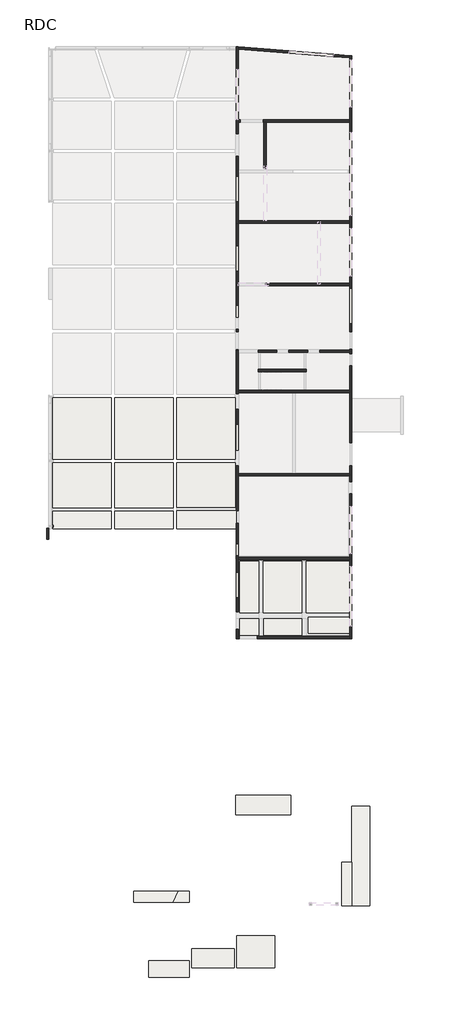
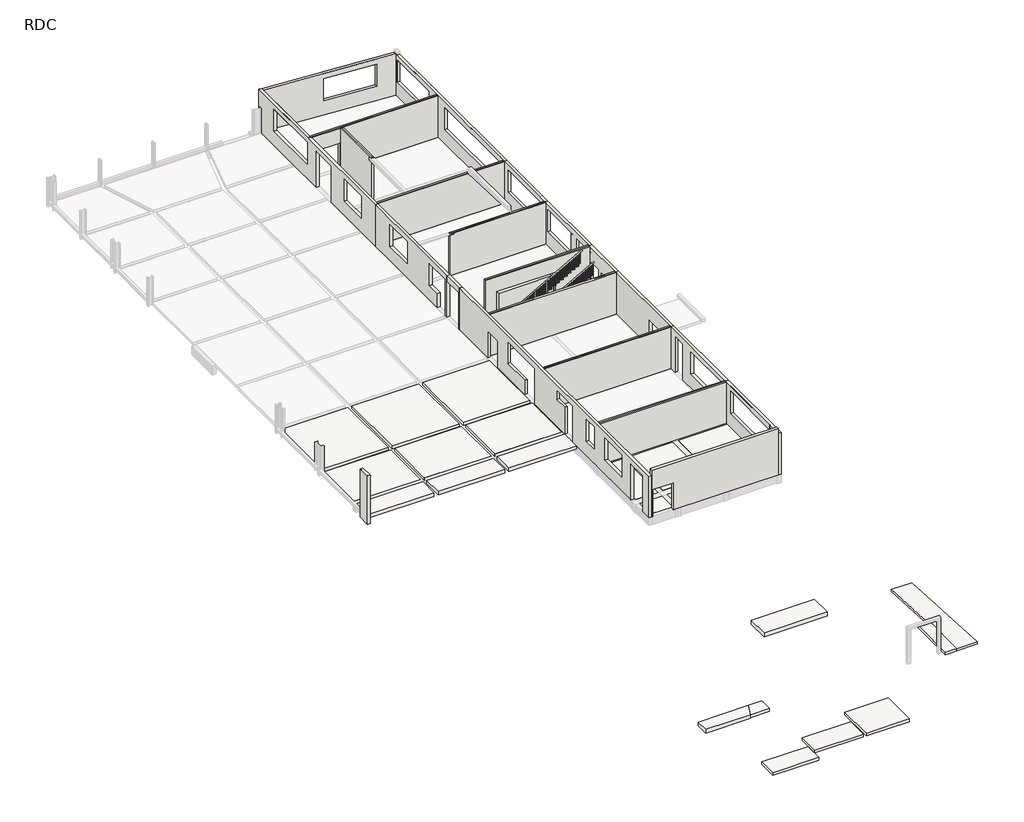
# One storey, part 1 of 4: 23 slabs, 15 walls.
"""IFC4 building model written with IfcOpenShell, lengths in millimetres."""

from ifc_helpers import new_model, si_unit, frame, origin, origin_with_axes, place, context, project, spatial, polyline, outline, extrude, faceted_brep, element, save

model = new_model("IFC4")

# Units and contexts
model_context = context("Model", 3, world=origin())
ifc_project = project(units=[si_unit("LENGTHUNIT", "METRE", prefix="MILLI")], contexts=[model_context])

# Site, building, storey
site = spatial("IfcSite", under=ifc_project)
building = spatial("IfcBuilding", under=site)
storey = spatial("IfcBuildingStorey", under=building, Name="RDC", Elevation=0.0)

# Slabs
placement = place(None, origin())
element("IfcSlab", 1, ObjectType="Dallage Porteur - Ep 20 cm", at=placement, inside=storey, context=model_context, shape_type="Brep", body=[
    faceted_brep([(32249.048278, 32820.2771549, -200.0), (32249.048278, 32779.8020807, -200.0), (32249.048278, 28499.8020807, -200.0), (30639.0482779, 28499.8020807, -200.0), (30639.0482779, 32779.8020807, -200.0), (30639.0482779, 32820.2771549, -200.0), (32249.048278, 32820.2771549, 0.0), (30639.0482779, 32820.2771549, 0.0), (30639.0482779, 32779.8020807, 0.0), (30639.0482779, 28499.8020807, 0.0), (32249.048278, 28499.8020807, 0.0)], [[[0, 1, 2, 3, 4, 5]], [[6, 7, 8, 9, 10]], [[2, 1, 0, 6, 10]], [[3, 2, 10, 9]], [[5, 4, 3, 9, 8, 7]], [[0, 5, 7, 6]]]),
])
element("IfcSlab", 2, ObjectType="Dallage Porteur - Ep 20 cm", at=placement, inside=storey, context=model_context, shape_type="Brep", body=[
    faceted_brep([(32599.548278, 28499.8020807, -200.0), (32599.548278, 32779.8020807, -200.0), (32599.548278, 32820.2771549, -200.0), (35804.0482778, 32820.2771549, -200.0), (35804.0482778, 32779.8020807, -200.0), (35804.0482778, 28499.8020807, -200.0), (32649.048278, 28499.8020807, -200.0), (32599.548278, 28499.8020807, 0.0), (35804.0482778, 28499.8020807, 0.0), (35804.0482778, 32779.8020807, 0.0), (35804.0482778, 32820.2771549, 0.0), (32599.548278, 32820.2771549, 0.0), (32599.548278, 32779.8020807, 0.0)], [[[0, 1, 2, 3, 4, 5, 6]], [[7, 8, 9, 10, 11, 12]], [[2, 1, 0, 7, 12, 11]], [[3, 2, 11, 10]], [[5, 4, 3, 10, 9, 8]], [[0, 6, 5, 8, 7]]]),
])
element("IfcSlab", 3, ObjectType="Dallage Porteur - Ep 20 cm", at=placement, inside=storey, context=model_context, shape_type="Brep", body=[
    faceted_brep([(36204.0482778, 28499.8020807, -200.0), (36204.0482778, 32779.8020807, -200.0), (36204.0482778, 32820.2771549, -200.0), (39689.0482781, 32820.2771549, -200.0), (39789.0482781, 32820.2771549, -200.0), (39789.0482781, 28499.8020807, -200.0), (39689.0482781, 28499.8020807, -200.0), (36204.0482778, 28499.8020807, 0.0), (39689.0482781, 28499.8020807, 0.0), (39789.0482781, 28499.8020807, 0.0), (39789.0482781, 32820.2771549, 0.0), (39689.0482781, 32820.2771549, 0.0), (36204.0482778, 32820.2771549, 0.0), (36204.0482778, 32779.8020807, 0.0)], [[[0, 1, 2, 3, 4, 5, 6]], [[7, 8, 9, 10, 11, 12, 13]], [[2, 1, 0, 7, 13, 12]], [[4, 3, 2, 12, 11, 10]], [[5, 4, 10, 9]], [[0, 6, 5, 9, 8, 7]]]),
])
element("IfcSlab", 4, ObjectType="Dallage Porteur - Ep 20 cm", at=placement, inside=storey, context=model_context, shape_type="SweptSolid", body=[
    extrude(outline(polyline([(30639.0482779, 26649.8020807), (30639.0482779, 27999.8020807), (32248.548278, 27999.8020807), (32248.548278, 26649.8020807), (30639.0482779, 26649.8020807)])), frame((0.0, 0.0, -200.0), z_axis=(0.0, 0.0, 1.0), x_axis=(1.0, 0.0, 0.0)), (0.0, 0.0, 1.0), 200.0),
])
element("IfcSlab", 5, ObjectType="Dallage Porteur - Ep 20 cm", at=placement, inside=storey, context=model_context, shape_type="SweptSolid", body=[
    extrude(outline(polyline([(32648.548278, 26649.8020807), (32648.548278, 27999.8020807), (35804.0482778, 27999.8020807), (35804.0482778, 26649.8020807), (32648.548278, 26649.8020807)])), frame((0.0, 0.0, -200.0), z_axis=(0.0, 0.0, 1.0), x_axis=(1.0, 0.0, 0.0)), (0.0, 0.0, 1.0), 200.0),
])
element("IfcSlab", 6, ObjectType="Dallage Porteur - Ep 20 cm", at=placement, inside=storey, context=model_context, shape_type="Brep", body=[
    faceted_brep([(36345.7618939, 26791.5156968, -200.0), (36345.7618939, 27999.8020807, -200.0), (36345.7618939, 28141.5156968, -200.0), (39689.0482781, 28141.5156968, -200.0), (39930.7618942, 28141.5156968, -200.0), (39930.7618942, 26791.5156968, -200.0), (39689.0482781, 26791.5156968, -200.0), (36345.7618939, 26791.5156968, 0.0), (39689.0482781, 26791.5156968, 0.0), (39930.7618942, 26791.5156968, 0.0), (39930.7618942, 28141.5156968, 0.0), (39689.0482781, 28141.5156968, 0.0), (36345.7618939, 28141.5156968, 0.0), (36345.7618939, 27999.8020807, 0.0)], [[[0, 1, 2, 3, 4, 5, 6]], [[7, 8, 9, 10, 11, 12, 13]], [[2, 1, 0, 7, 13, 12]], [[4, 3, 2, 12, 11, 10]], [[5, 4, 10, 9]], [[0, 6, 5, 9, 8, 7]]]),
])
element("IfcSlab", 7, ObjectType="Dallage Porteur - Ep 25 cm", at=placement, inside=storey, context=model_context, shape_type="SweptSolid", body=[
    extrude(outline(polyline([(19942.0406356, 36949.8020807), (19942.0406356, 35509.8020807), (15069.048278, 35509.8020807), (15069.048278, 36949.8020807), (19942.0406356, 36949.8020807)])), frame((0.0, 0.0, -250.0), z_axis=(0.0, 0.0, 1.0), x_axis=(1.0, 0.0, 0.0)), (0.0, 0.0, 1.0), 250.0),
])
element("IfcSlab", 8, ObjectType="Dallage Porteur - Ep 25 cm", at=placement, inside=storey, context=model_context, shape_type="SweptSolid", body=[
    extrude(outline(polyline([(25116.0406356, 36949.8020807), (25116.0406356, 35509.8020807), (20242.0406356, 35509.8020807), (20242.0406356, 36949.8020807), (25116.0406356, 36949.8020807)])), frame((0.0, 0.0, -250.0), z_axis=(0.0, 0.0, 1.0), x_axis=(1.0, 0.0, 0.0)), (0.0, 0.0, 1.0), 250.0),
])
element("IfcSlab", 9, ObjectType="Dallage Porteur - Ep 25 cm", at=placement, inside=storey, context=model_context, shape_type="Brep", body=[
    faceted_brep([(30339.0482779, 36999.8020807, -250.0), (30339.0482779, 35509.8020807, -250.0), (25416.0406356, 35509.8020807, -250.0), (25416.0406356, 36999.8020807, -250.0), (30339.0482779, 36999.8020807, 0.0), (25416.0406356, 36999.8020807, 0.0), (25416.0406356, 36949.8020807, 0.0), (25416.0406356, 35509.8020807, 0.0), (30339.0482779, 35509.8020807, 0.0)], [[[0, 1, 2, 3]], [[4, 5, 6, 7, 8]], [[1, 0, 4, 8]], [[2, 1, 8, 7]], [[3, 2, 7, 6, 5]], [[0, 3, 5, 4]]]),
])
element("IfcSlab", 10, ObjectType="Dallage Porteur - Ep 15 cm pour rampe extérieure", at=placement, inside=storey, context=model_context, shape_type="Brep", body=[
    faceted_brep([(39988.5636525, 12418.9863353, -620.0), (39988.5636525, 12418.9863353, -470.0), (41489.0482781, 12418.9863353, -470.0), (41489.0482781, 12418.9863353, -620.0), (39989.0485373, 12418.9863353, -620.0), (41489.0482781, 4119.2504146, -20.0), (41489.0482781, 4119.2504146, -100.0), (41489.0482781, 4119.2504146, -170.0), (41489.0482781, 12249.8020807, -610.8270678), (39988.5636525, 4119.2504146, -20.0), (39988.5636525, 4119.2504146, -100.0), (39988.5636525, 4119.2504146, -170.0), (39988.5636525, 4120.06616, -170.0442286)], [[[0, 1, 2, 3, 4]], [[3, 2, 5, 6, 7, 8]], [[7, 6, 5, 9, 10, 11]], [[11, 10, 9, 1, 0, 12]], [[5, 2, 1, 9]], [[7, 11, 12, 0, 4, 3, 8]]]),
])
element("IfcSlab", 11, ObjectType="Dallage Porteur - Ep 20 ds existant", at=placement, inside=storey, context=model_context, shape_type="SweptSolid", body=[
    extrude(outline(polyline([(26449.0, -460.1979194), (26449.0, -1840.1979193), (23089.0, -1840.1979193), (23089.0, -460.1979194), (26449.0, -460.1979194)])), frame((0.0, 0.0, -250.0), z_axis=(0.0, 0.0, 1.0), x_axis=(1.0, 0.0, 0.0)), (0.0, 0.0, 1.0), 200.0),
])
element("IfcSlab", 12, ObjectType="Dallage Porteur - Ep 20 ds existant", at=placement, inside=storey, context=model_context, shape_type="SweptSolid", body=[
    extrude(outline(polyline([(30189.0, 569.8020807), (30189.0, -1040.1979193), (26649.0, -1040.1979193), (26649.0, 569.8020807), (30189.0, 569.8020807)])), frame((0.0, 0.0, -250.0), z_axis=(0.0, 0.0, 1.0), x_axis=(1.0, 0.0, 0.0)), (0.0, 0.0, 1.0), 200.0),
])
element("IfcSlab", 13, ObjectType="Dallage Porteur - Ep 20 ds existant", at=placement, inside=storey, context=model_context, shape_type="SweptSolid", body=[
    extrude(outline(polyline([(33549.0, 1641.2620585), (33549.0, -1040.1979193), (30389.0, -1040.1979193), (30389.0, 1641.2620585), (33549.0, 1641.2620585)])), frame((0.0, 0.0, -250.0), z_axis=(0.0, 0.0, 1.0), x_axis=(1.0, 0.0, 0.0)), (0.0, 0.0, 1.0), 200.0),
])
element("IfcSlab", 14, ObjectType="Dallage Porteur - Ep 30 ds existant", at=placement, inside=storey, context=model_context, shape_type="SweptSolid", body=[
    extrude(outline(polyline([(21809.0, 5341.3020807), (25473.6, 5341.3020807), (25078.8358963, 4411.2856817), (21809.0, 4411.2856817), (21809.0, 5341.3020807)])), frame((0.0, 0.0, -350.0), z_axis=(0.0, 0.0, 1.0), x_axis=(1.0, 0.0, 0.0)), (0.0, 0.0, 1.0), 300.0),
])
element("IfcSlab", 15, ObjectType="Dallage Porteur - Ep 24 ds existant", at=placement, inside=storey, context=model_context, shape_type="SweptSolid", body=[
    extrude(outline(polyline([(26449.0, 5341.3020807), (26449.0, 4411.2856817), (25078.8358963, 4411.2856817), (25473.6, 5341.3020807), (26449.0, 5341.3020807)])), frame((0.0, 0.0, -290.0), z_axis=(0.0, 0.0, 1.0), x_axis=(1.0, 0.0, 0.0)), (0.0, 0.0, 1.0), 240.0),
])
element("IfcSlab", 16, ObjectType="Dallage Porteur - Ep 30 ds existant", at=placement, inside=storey, context=model_context, shape_type="SweptSolid", body=[
    extrude(outline(polyline([(34899.0, 11719.8020807), (30299.0, 11719.8020807), (30299.0, 13319.8020807), (34899.0, 13319.8020807), (34899.0, 11719.8020807)])), frame((0.0, 0.0, -300.0), z_axis=(0.0, 0.0, 1.0), x_axis=(1.0, 0.0, 0.0)), (0.0, 0.0, 1.0), 300.0),
])
element("IfcSlab", 17, ObjectType="Dallage Porteur - Ep 20 cm ds atelier", at=placement, inside=storey, context=model_context, shape_type="SweptSolid", body=[
    extrude(outline(polyline([(19942.0406356, 41299.8020807), (15069.048278, 41299.8020807), (15069.048278, 46399.8020807), (19942.0406356, 46399.8020807), (19942.0406356, 41299.8020807)])), frame((0.0, 0.0, -200.0), z_axis=(0.0, 0.0, 1.0), x_axis=(1.0, 0.0, 0.0)), (0.0, 0.0, 1.0), 200.0),
])
element("IfcSlab", 18, ObjectType="Dallage Porteur - Ep 20 cm ds atelier", at=placement, inside=storey, context=model_context, shape_type="SweptSolid", body=[
    extrude(outline(polyline([(25116.0406356, 41299.8020807), (20242.0406356, 41299.8020807), (20242.0406356, 46399.8020807), (25116.0406356, 46399.8020807), (25116.0406356, 41299.8020807)])), frame((0.0, 0.0, -200.0), z_axis=(0.0, 0.0, 1.0), x_axis=(1.0, 0.0, 0.0)), (0.0, 0.0, 1.0), 200.0),
])
element("IfcSlab", 19, ObjectType="Dallage Porteur - Ep 20 cm ds atelier", at=placement, inside=storey, context=model_context, shape_type="SweptSolid", body=[
    extrude(outline(polyline([(30289.0482779, 41299.8020807), (25416.0406356, 41299.8020807), (25416.0406356, 46399.8020807), (30289.0482779, 46399.8020807), (30289.0482779, 41299.8020807)])), frame((0.0, 0.0, -200.0), z_axis=(0.0, 0.0, 1.0), x_axis=(1.0, 0.0, 0.0)), (0.0, 0.0, 1.0), 200.0),
])
element("IfcSlab", 20, ObjectType="Dallage Porteur - Ep 20 cm ds atelier", at=placement, inside=storey, context=model_context, shape_type="Brep", body=[
    faceted_brep([(30289.0482779, 37299.8020807, -200.0), (25416.0406356, 37299.8020807, -200.0), (25416.0406356, 40999.8020807, -200.0), (30289.0482779, 40999.8020807, -200.0), (30289.0482779, 40149.8020813, -200.0), (30289.0482779, 39999.8020813, -200.0), (30289.0482779, 37299.8020807, 0.0), (30289.0482779, 39849.8020813, 0.0), (30289.0482779, 40149.8020813, 0.0), (30289.0482779, 40999.8020807, 0.0), (25416.0406356, 40999.8020807, 0.0), (25416.0406356, 37299.8020807, 0.0)], [[[0, 1, 2, 3, 4, 5]], [[6, 7, 8, 9, 10, 11]], [[1, 0, 6, 11]], [[2, 1, 11, 10]], [[3, 2, 10, 9]], [[0, 5, 4, 3, 9, 8, 7, 6]]]),
])
element("IfcSlab", 21, ObjectType="Dallage Porteur - Ep 20 cm ds atelier", at=placement, inside=storey, context=model_context, shape_type="Brep", body=[
    faceted_brep([(25116.0406356, 37249.8020807, -200.0), (25113.6477273, 37249.8020807, -200.0), (20242.0406356, 37249.8020807, -200.0), (20242.0406356, 40999.8020807, -200.0), (25116.0406356, 40999.8020807, -200.0), (25116.0406356, 37299.8020807, -200.0), (25116.0406356, 37249.8020807, 0.0), (25116.0406356, 40999.8020807, 0.0), (20242.0406356, 40999.8020807, 0.0), (20242.0406356, 37249.8020807, 0.0)], [[[0, 1, 2, 3, 4, 5]], [[6, 7, 8, 9]], [[2, 1, 0, 6, 9]], [[3, 2, 9, 8]], [[4, 3, 8, 7]], [[0, 5, 4, 7, 6]]]),
])
element("IfcSlab", 22, ObjectType="Dallage Porteur - Ep 20 cm ds atelier", at=placement, inside=storey, context=model_context, shape_type="SweptSolid", body=[
    extrude(outline(polyline([(15069.048278, 40999.8020807), (19942.0406356, 40999.8020807), (19942.0406356, 37249.8020807), (15069.048278, 37249.8020807), (15069.048278, 40999.8020807)])), frame((0.0, 0.0, -200.0), z_axis=(0.0, 0.0, 1.0), x_axis=(1.0, 0.0, 0.0)), (0.0, 0.0, 1.0), 200.0),
])
element("IfcSlab", 23, ObjectType="Dallage Porteur - Ep 18 cm palier d'arrivée de rampe", at=placement, inside=storey, context=model_context, shape_type="Brep", body=[
    faceted_brep([(39989.0482781, 4120.06616, -180.0), (39988.5636525, 4120.06616, -180.0), (39788.5636525, 4120.06616, -180.0), (39149.505333, 4120.06616, -180.0), (39149.505333, 7749.8020808, -180.0), (39989.0482781, 7749.8020808, -180.0), (39989.0482781, 4120.06616, 0.0), (39989.0482781, 7749.8020808, 0.0), (39149.505333, 7749.8020808, 0.0), (39149.505333, 4120.06616, 0.0), (39788.5636525, 4120.06616, 0.0), (39988.5636525, 4120.06616, 0.0)], [[[0, 1, 2, 3, 4, 5]], [[6, 7, 8, 9, 10, 11]], [[3, 2, 1, 0, 6, 11, 10, 9]], [[4, 3, 9, 8]], [[5, 4, 8, 7]], [[0, 5, 7, 6]]]),
])

# Walls
element("IfcWall", 24, ObjectType="20 cm - Béton Armé C25/30", at=placement, inside=storey, context=model_context, shape_type="Brep", body=[
    faceted_brep([(30339.0482779, 75645.8255641, 3200.0), (30339.0482779, 75645.8255641, 0.0), (30339.0482779, 68397.8019847, 0.0), (30339.0482779, 68397.8019847, 2800.0), (30339.0482779, 66507.8019847, 2800.0), (30339.0482779, 66507.8019847, 0.0), (30339.0482779, 60949.8020814, 0.0), (30339.0482779, 60949.8020814, 3200.0), (30339.0482779, 61049.8020814, 3200.0), (30339.0482779, 69449.8020814, 3200.0), (30339.0482779, 62712.7522291, 2800.0), (30339.0482779, 62712.7522291, 1100.0), (30339.0482779, 64862.7522291, 1100.0), (30339.0482779, 64862.7522291, 2800.0), (30339.0482779, 73749.8020814, 1100.0), (30339.0482779, 73749.8020814, 2800.0), (30339.0482779, 69549.8020814, 2800.0), (30339.0482779, 69549.8020814, 1100.0), (30539.0482779, 75630.0113589, 0.0), (30539.0482779, 75630.0113589, 3200.0), (30539.0482779, 75429.3871104, 3200.0), (30539.0482779, 69549.8020814, 3200.0), (30539.0482779, 69449.8020814, 3200.0), (30539.0482779, 69349.8020814, 3200.0), (30539.0482779, 61149.8020814, 3200.0), (30539.0482779, 60949.8020814, 3200.0), (30539.0482779, 60949.8020814, 0.0), (30539.0482779, 61149.8020814, 0.0), (30539.0482779, 66507.8019847, 0.0), (30539.0482779, 66507.8019847, 2800.0), (30539.0482779, 68397.8019847, 2800.0), (30539.0482779, 68397.8019847, 0.0), (30539.0482779, 69349.8020814, 0.0), (30539.0482779, 69549.8020814, 0.0), (30539.0482779, 75429.3871104, 0.0), (30539.0482779, 62712.7522291, 1100.0), (30539.0482779, 62712.7522291, 2800.0), (30539.0482779, 64862.7522291, 2800.0), (30539.0482779, 64862.7522291, 1100.0), (30539.0482779, 73749.8020814, 2800.0), (30539.0482779, 73749.8020814, 1100.0), (30539.0482779, 69549.8020814, 1100.0), (30539.0482779, 69549.8020814, 2800.0)], [[[0, 1, 2, 3, 4, 5, 6, 7, 8, 9], [10, 11, 12, 13], [14, 15, 16, 17]], [[18, 19, 20, 21, 22, 23, 24, 25, 26, 27, 28, 29, 30, 31, 32, 33, 34], [35, 36, 37, 38], [39, 40, 41, 42]], [[1, 18, 34, 33, 32, 31, 2]], [[5, 28, 27, 26, 6]], [[1, 0, 19, 18]], [[11, 10, 36, 35]], [[12, 11, 35, 38]], [[13, 12, 38, 37]], [[10, 13, 37, 36]], [[31, 30, 3, 2]], [[29, 28, 5, 4]], [[30, 29, 4, 3]], [[40, 39, 15, 14]], [[41, 40, 14, 17]], [[42, 41, 17, 16]], [[39, 42, 16, 15]], [[22, 9, 8, 7, 25, 24, 23]], [[0, 9, 22, 21, 20, 19]], [[7, 6, 26, 25]]]),
    faceted_brep([(30339.0482779, 26349.8020807, 0.0), (30339.0482779, 26349.8020807, 3200.0), (30339.0482779, 46929.8020813, 3200.0), (30339.0482779, 50279.8020815, 3200.0), (30339.0482779, 50319.8020815, 3200.0), (30339.0482779, 50319.8020815, 0.0), (30339.0482779, 46724.8020813, 0.0), (30339.0482779, 46724.8020813, 2080.0), (30339.0482779, 45434.8020813, 2080.0), (30339.0482779, 45434.8020813, 0.0), (30339.0482779, 42051.8519336, 0.0), (30339.0482779, 42051.8519336, 1100.0), (30339.0482779, 44201.8519336, 1100.0), (30339.0482779, 44201.8519336, 2800.0), (30339.0482779, 40751.8519336, 2800.0), (30339.0482779, 40751.8519336, 0.0), (30339.0482779, 36999.8020807, 0.0), (30339.0482779, 36996.8519337, 0.0), (30339.0482779, 36996.8519337, 2080.0), (30339.0482779, 38011.8519337, 2080.0), (30339.0482779, 38011.8519337, 2800.0), (30339.0482779, 35966.8519337, 2800.0), (30339.0482779, 35966.8519337, 0.0), (30339.0482779, 33279.8020807, 0.0), (30339.0482779, 32779.8020807, 0.0), (30339.0482779, 28618.4806445, 0.0), (30339.0482779, 28618.4806445, 2800.0), (30339.0482779, 27128.4806445, 2800.0), (30339.0482779, 27128.4806445, 0.0), (30339.0482779, 31899.8020742, 1100.0), (30339.0482779, 31899.8020742, 2800.0), (30339.0482779, 29749.8020742, 2800.0), (30339.0482779, 29749.8020742, 1100.0), (30339.0482779, 34271.8519336, 1100.0), (30339.0482779, 34271.8519336, 2800.0), (30339.0482779, 33271.8519336, 2800.0), (30339.0482779, 33271.8519336, 1100.0), (30539.0482779, 26349.8020807, 3200.0), (30539.0482779, 26349.8020807, 0.0), (30539.0482779, 26549.8020807, 0.0), (30539.0482779, 27128.4806445, 0.0), (30539.0482779, 27128.4806445, 2800.0), (30539.0482779, 28618.4806445, 2800.0), (30539.0482779, 28618.4806445, 0.0), (30539.0482779, 32929.8020807, 0.0), (30539.0482779, 33129.8020807, 0.0), (30539.0482779, 35966.8519337, 0.0), (30539.0482779, 35966.8519337, 2800.0), (30539.0482779, 38011.8519337, 2800.0), (30539.0482779, 38011.8519337, 2080.0), (30539.0482779, 36996.8519337, 2080.0), (30539.0482779, 36996.8519337, 0.0), (30539.0482779, 39899.8020813, 0.0), (30539.0482779, 40099.8020813, 0.0), (30539.0482779, 40751.8519336, 0.0), (30539.0482779, 40751.8519336, 2800.0), (30539.0482779, 44201.8519336, 2800.0), (30539.0482779, 44201.8519336, 1100.0), (30539.0482779, 42051.8519336, 1100.0), (30539.0482779, 42051.8519336, 0.0), (30539.0482779, 45434.8020813, 0.0), (30539.0482779, 45434.8020813, 2080.0), (30539.0482779, 46724.8020813, 2080.0), (30539.0482779, 46724.8020813, 0.0), (30539.0482779, 46829.8020813, 0.0), (30539.0482779, 47029.8020813, 0.0), (30539.0482779, 50319.8020815, 0.0), (30539.0482779, 50319.8020815, 3200.0), (30539.0482779, 47029.8020813, 3200.0), (30539.0482779, 46829.8020813, 3200.0), (30539.0482779, 40099.8020813, 3200.0), (30539.0482779, 39899.8020813, 3200.0), (30539.0482779, 33129.8020807, 3200.0), (30539.0482779, 32929.8020807, 3200.0), (30539.0482779, 31899.8020742, 2800.0), (30539.0482779, 31899.8020742, 1100.0), (30539.0482779, 29749.8020742, 1100.0), (30539.0482779, 29749.8020742, 2800.0), (30539.0482779, 34271.8519336, 2800.0), (30539.0482779, 34271.8519336, 1100.0), (30539.0482779, 33271.8519336, 1100.0), (30539.0482779, 33271.8519336, 2800.0)], [[[0, 1, 2, 3, 4, 5, 6, 7, 8, 9, 10, 11, 12, 13, 14, 15, 16, 17, 18, 19, 20, 21, 22, 23, 24, 25, 26, 27, 28], [29, 30, 31, 32], [33, 34, 35, 36]], [[37, 38, 39, 40, 41, 42, 43, 44, 45, 46, 47, 48, 49, 50, 51, 52, 53, 54, 55, 56, 57, 58, 59, 60, 61, 62, 63, 64, 65, 66, 67, 68, 69, 70, 71, 72, 73], [74, 75, 76, 77], [78, 79, 80, 81]], [[43, 25, 24, 23, 22, 46, 45, 44]], [[51, 17, 16, 15, 54, 53, 52]], [[59, 10, 9, 60]], [[38, 0, 28, 40, 39]], [[63, 6, 5, 66, 65, 64]], [[1, 0, 38, 37]], [[43, 42, 26, 25]], [[41, 40, 28, 27]], [[42, 41, 27, 26]], [[75, 74, 30, 29]], [[76, 75, 29, 32]], [[77, 76, 32, 31]], [[74, 77, 31, 30]], [[79, 78, 34, 33]], [[80, 79, 33, 36]], [[81, 80, 36, 35]], [[78, 81, 35, 34]], [[17, 51, 50, 18]], [[47, 46, 22, 21]], [[47, 21, 20, 48]], [[1, 37, 73, 72, 71, 70, 69, 68, 67, 4, 3, 2]], [[10, 59, 58, 11]], [[55, 54, 15, 14]], [[55, 14, 13, 56]], [[57, 12, 11, 58]], [[12, 57, 56, 13]], [[5, 4, 67, 66]], [[9, 8, 61, 60]], [[7, 6, 63, 62]], [[8, 7, 62, 61]], [[48, 20, 19, 49]], [[49, 19, 18, 50]]]),
])
element("IfcWall", 25, ObjectType="20 cm - Béton Armé C25/30", at=placement, inside=storey, context=model_context, shape_type="Brep", body=[
    faceted_brep([(39989.0482781, 74882.7901624, 0.0), (39989.0482781, 74882.7901624, 3200.0), (39989.0482781, 69449.8020814, 3200.0), (39989.0482781, 61049.8020814, 3200.0), (39989.0482781, 55849.8020814, 3200.0), (39989.0482781, 50279.3020815, 3200.0), (39989.0482781, 46929.8020813, 3200.0), (39989.0482781, 39999.8020813, 3200.0), (39989.0482781, 33029.8020807, 3200.0), (39989.0482781, 26349.8020807, 3200.0), (39989.0482781, 26349.8020807, 0.0), (39989.0482781, 33129.8020807, 0.0), (39989.0482781, 33279.8020807, 0.0), (39989.0482781, 38411.8519337, 0.0), (39989.0482781, 38411.8519337, 2800.0), (39989.0482781, 39411.8519337, 2800.0), (39989.0482781, 39411.8519337, 0.0), (39989.0482781, 39849.8020813, 0.0), (39989.0482781, 40761.8519336, 0.0), (39989.0482781, 40761.8519336, 2080.0), (39989.0482781, 42651.8519336, 2080.0), (39989.0482781, 42651.8519336, 0.0), (39989.0482781, 47029.8020813, 0.0), (39989.0482781, 49069.8020814, 0.0), (39989.0482781, 49069.8020814, 2080.0), (39989.0482781, 50069.8020814, 2080.0), (39989.0482781, 50069.8020814, 0.0), (39989.0482781, 50129.8020815, 0.0), (39989.0482781, 50429.8020814, 0.0), (39989.0482781, 50429.8020814, 2800.0), (39989.0482781, 51919.8020814, 2800.0), (39989.0482781, 51919.8020814, 0.0), (39989.0482781, 55699.8020814, 0.0), (39989.0482781, 61149.8020814, 0.0), (39989.0482781, 65289.8020814, 0.0), (39989.0482781, 69299.8020814, 0.0), (39989.0482781, 74581.8537897, 0.0), (39989.0482781, 55524.8020814, 2800.0), (39989.0482781, 55524.8020814, 1100.0), (39989.0482781, 52574.8020814, 1100.0), (39989.0482781, 52574.8020814, 2800.0), (39989.0482781, 70574.5520814, 1100.0), (39989.0482781, 70574.5520814, 2800.0), (39989.0482781, 74549.5520814, 2800.0), (39989.0482781, 74549.5520814, 1100.0), (39989.0482781, 68524.8020814, 2800.0), (39989.0482781, 68524.8020814, 1100.0), (39989.0482781, 61574.8020814, 1100.0), (39989.0482781, 61574.8020814, 2800.0), (39989.0482781, 60524.8020814, 2800.0), (39989.0482781, 60524.8020814, 1100.0), (39989.0482781, 56524.8020814, 1100.0), (39989.0482781, 56524.8020814, 2800.0), (39989.0482781, 32392.3519337, 2800.0), (39989.0482781, 32392.3519337, 1100.0), (39989.0482781, 27412.3519337, 1100.0), (39989.0482781, 27412.3519337, 2800.0), (39989.0482781, 37391.8519337, 2800.0), (39989.0482781, 37391.8519337, 1100.0), (39989.0482781, 33441.8519337, 1100.0), (39989.0482781, 33441.8519337, 2800.0), (39989.0482781, 48514.6843248, 1820.0), (39989.0482781, 48514.6843248, 2020.0), (39989.0482781, 48714.6843248, 2020.0), (39989.0482781, 48714.6843248, 1820.0), (39989.0482781, 56151.202291, 200.0), (39989.0482781, 56151.202291, 600.0), (39989.0482781, 56461.202291, 600.0), (39989.0482781, 56461.202291, 200.0), (39789.0482781, 74898.6043676, 3200.0), (39789.0482781, 74898.6043676, 0.0), (39789.0482781, 74697.9801191, 0.0), (39789.0482781, 74597.6679949, 0.0), (39789.0482781, 69599.8020814, 0.0), (39789.0482781, 69549.8020814, 0.0), (39789.0482781, 69349.8020814, 0.0), (39789.0482781, 69299.8020814, 0.0), (39789.0482781, 65399.8020814, 0.0), (39789.0482781, 65099.8020814, 0.0), (39789.0482781, 61199.8020814, 0.0), (39789.0482781, 61149.8020814, 0.0), (39789.0482781, 60949.8020814, 0.0), (39789.0482781, 60899.8020814, 0.0), (39789.0482781, 55999.8020814, 0.0), (39789.0482781, 55949.8020814, 0.0), (39789.0482781, 55749.8020814, 0.0), (39789.0482781, 55699.8020814, 0.0), (39789.0482781, 51919.8020814, 0.0), (39789.0482781, 51919.8020814, 2800.0), (39789.0482781, 50429.8020814, 2800.0), (39789.0482781, 50429.8020814, 0.0), (39789.0482781, 50379.8020815, 0.0), (39789.0482781, 50179.8020815, 0.0), (39789.0482781, 50129.8020815, 0.0), (39789.0482781, 50069.8020814, 0.0), (39789.0482781, 50069.8020814, 2080.0), (39789.0482781, 49069.8020814, 2080.0), (39789.0482781, 49069.8020814, 0.0), (39789.0482781, 47079.8020813, 0.0), (39789.0482781, 47029.8020813, 0.0), (39789.0482781, 46829.8020813, 0.0), (39789.0482781, 46779.8020813, 0.0), (39789.0482781, 42651.8519336, 0.0), (39789.0482781, 42651.8519336, 2080.0), (39789.0482781, 40761.8519336, 2080.0), (39789.0482781, 40761.8519336, 0.0), (39789.0482781, 40149.8020813, 0.0), (39789.0482781, 40099.8020813, 0.0), (39789.0482781, 39899.8020813, 0.0), (39789.0482781, 39411.8519337, 0.0), (39789.0482781, 39411.8519337, 2800.0), (39789.0482781, 38411.8519337, 2800.0), (39789.0482781, 38411.8519337, 0.0), (39789.0482781, 33129.8020807, 0.0), (39789.0482781, 32929.8020807, 0.0), (39789.0482781, 32820.2771549, 0.0), (39789.0482781, 28499.8020807, 0.0), (39789.0482781, 26549.8020807, 0.0), (39789.0482781, 26349.8020807, 0.0), (39789.0482781, 26349.8020807, 3200.0), (39789.0482781, 32929.8020807, 3200.0), (39789.0482781, 33029.8020807, 3200.0), (39789.0482781, 33129.8020807, 3200.0), (39789.0482781, 39899.8020813, 3200.0), (39789.0482781, 39999.8020813, 3200.0), (39789.0482781, 40099.8020813, 3200.0), (39789.0482781, 46829.8020813, 3200.0), (39789.0482781, 46929.8020813, 3200.0), (39789.0482781, 47029.8020813, 3200.0), (39789.0482781, 50179.8020815, 3200.0), (39789.0482781, 50279.3020815, 3200.0), (39789.0482781, 50379.8020815, 3200.0), (39789.0482781, 55749.8020814, 3200.0), (39789.0482781, 55849.8020814, 3200.0), (39789.0482781, 55949.8020814, 3200.0), (39789.0482781, 60949.8020814, 3200.0), (39789.0482781, 61049.8020814, 3200.0), (39789.0482781, 61149.8020814, 3200.0), (39789.0482781, 69349.8020814, 3200.0), (39789.0482781, 69549.8020814, 3200.0), (39789.0482781, 74697.9801191, 3200.0), (39789.0482781, 55524.8020814, 1100.0), (39789.0482781, 55524.8020814, 2800.0), (39789.0482781, 52574.8020814, 2800.0), (39789.0482781, 52574.8020814, 1100.0), (39789.0482781, 70574.5520814, 2800.0), (39789.0482781, 70574.5520814, 1100.0), (39789.0482781, 74549.5520814, 1100.0), (39789.0482781, 74549.5520814, 2800.0), (39789.0482781, 68524.8020814, 1100.0), (39789.0482781, 68524.8020814, 2800.0), (39789.0482781, 61574.8020814, 2800.0), (39789.0482781, 61574.8020814, 1100.0), (39789.0482781, 60524.8020814, 1100.0), (39789.0482781, 60524.8020814, 2800.0), (39789.0482781, 56524.8020814, 2800.0), (39789.0482781, 56524.8020814, 1100.0), (39789.0482781, 32392.3519337, 1100.0), (39789.0482781, 32392.3519337, 2800.0), (39789.0482781, 27412.3519337, 2800.0), (39789.0482781, 27412.3519337, 1100.0), (39789.0482781, 37391.8519337, 1100.0), (39789.0482781, 37391.8519337, 2800.0), (39789.0482781, 33441.8519337, 2800.0), (39789.0482781, 33441.8519337, 1100.0), (39789.0482781, 48514.6843248, 2020.0), (39789.0482781, 48514.6843248, 1820.0), (39789.0482781, 48714.6843248, 1820.0), (39789.0482781, 48714.6843248, 2020.0), (39789.0482781, 56151.202291, 600.0), (39789.0482781, 56151.202291, 200.0), (39789.0482781, 56461.202291, 200.0), (39789.0482781, 56461.202291, 600.0)], [[[0, 1, 2, 3, 4, 5, 6, 7, 8, 9, 10, 11, 12, 13, 14, 15, 16, 17, 18, 19, 20, 21, 22, 23, 24, 25, 26, 27, 28, 29, 30, 31, 32, 33, 34, 35, 36], [37, 38, 39, 40], [41, 42, 43, 44], [45, 46, 47, 48], [49, 50, 51, 52], [53, 54, 55, 56], [57, 58, 59, 60], [61, 62, 63, 64], [65, 66, 67, 68]], [[69, 70, 71, 72, 73, 74, 75, 76, 77, 78, 79, 80, 81, 82, 83, 84, 85, 86, 87, 88, 89, 90, 91, 92, 93, 94, 95, 96, 97, 98, 99, 100, 101, 102, 103, 104, 105, 106, 107, 108, 109, 110, 111, 112, 113, 114, 115, 116, 117, 118, 119, 120, 121, 122, 123, 124, 125, 126, 127, 128, 129, 130, 131, 132, 133, 134, 135, 136, 137, 138, 139, 140], [141, 142, 143, 144], [145, 146, 147, 148], [149, 150, 151, 152], [153, 154, 155, 156], [157, 158, 159, 160], [161, 162, 163, 164], [165, 166, 167, 168], [169, 170, 171, 172]], [[16, 109, 108, 107, 106, 105, 18, 17]], [[112, 13, 12, 11, 10, 118, 117, 116, 115, 114, 113]], [[90, 28, 27, 26, 94, 93, 92, 91]], [[97, 23, 22, 21, 102, 101, 100, 99, 98]], [[70, 0, 36, 35, 34, 33, 32, 31, 87, 86, 85, 84, 83, 82, 81, 80, 79, 78, 77, 76, 75, 74, 73, 72, 71]], [[1, 0, 70, 69]], [[15, 110, 109, 16]], [[111, 14, 13, 112]], [[14, 111, 110, 15]], [[37, 142, 141, 38]], [[38, 141, 144, 39]], [[39, 144, 143, 40]], [[142, 37, 40, 143]], [[145, 42, 41, 146]], [[146, 41, 44, 147]], [[147, 44, 43, 148]], [[42, 145, 148, 43]], [[45, 150, 149, 46]], [[46, 149, 152, 47]], [[47, 152, 151, 48]], [[150, 45, 48, 151]], [[49, 154, 153, 50]], [[50, 153, 156, 51]], [[51, 156, 155, 52]], [[154, 49, 52, 155]], [[53, 158, 157, 54]], [[54, 157, 160, 55]], [[55, 160, 159, 56]], [[158, 53, 56, 159]], [[30, 88, 87, 31]], [[89, 29, 28, 90]], [[29, 89, 88, 30]], [[96, 24, 23, 97]], [[25, 95, 94, 26]], [[95, 25, 24, 96]], [[20, 103, 102, 21]], [[104, 19, 18, 105]], [[103, 20, 19, 104]], [[57, 162, 161, 58]], [[58, 161, 164, 59]], [[59, 164, 163, 60]], [[162, 57, 60, 163]], [[124, 7, 6, 127, 126, 125]], [[6, 5, 130, 129, 128, 127]], [[124, 123, 122, 121, 8, 7]], [[9, 8, 121, 120, 119]], [[1, 69, 140, 139, 138, 137, 136, 3, 2]], [[130, 5, 4, 133, 132, 131]], [[4, 3, 136, 135, 134, 133]], [[170, 169, 66, 65]], [[171, 170, 65, 68]], [[172, 171, 68, 67]], [[169, 172, 67, 66]], [[166, 165, 62, 61]], [[167, 166, 61, 64]], [[168, 167, 64, 63]], [[165, 168, 63, 62]], [[10, 9, 119, 118]]]),
])
element("IfcWall", 26, ObjectType="20 cm - Béton Armé C25/30", at=placement, inside=storey, context=model_context, shape_type="Brep", body=[
    faceted_brep([(39789.0482781, 74898.6043676, 0.0), (35069.7001414, 75271.7680672, 0.0), (30539.0482779, 75630.0113589, 0.0), (30539.0482779, 75630.0113589, 3200.0), (39789.0482781, 74898.6043676, 3200.0), (34770.7365997, 75295.4074212, 2800.0), (34770.7365997, 75295.4074212, 1100.0), (38459.2239362, 75003.7549428, 1100.0), (38459.2239362, 75003.7549428, 2800.0), (39789.0482781, 74697.9801191, 0.0), (39789.0482781, 74697.9801191, 3200.0), (30539.0482779, 75429.3871104, 3200.0), (30539.0482779, 75429.3871104, 0.0), (30589.0482779, 75425.4335591, 0.0), (35053.9351426, 75072.3903734, 0.0), (34754.9716008, 75096.0297274, 2800.0), (38443.4589374, 74804.377249, 2800.0), (38443.4589374, 74804.377249, 1100.0), (34754.9716008, 75096.0297274, 1100.0)], [[[0, 1, 2, 3, 4], [5, 6, 7, 8]], [[9, 10, 11, 12, 13, 14], [15, 16, 17, 18]], [[2, 1, 0, 9, 14, 13, 12]], [[3, 2, 12, 11]], [[6, 5, 15, 18]], [[7, 6, 18, 17]], [[8, 7, 17, 16]], [[5, 8, 16, 15]], [[4, 3, 11, 10]], [[0, 4, 10, 9]]]),
])
element("IfcWall", 27, ObjectType="20 cm - Béton Armé C25/30", at=placement, inside=storey, context=model_context, shape_type="Brep", body=[
    faceted_brep([(32199.048278, 48579.8020815, 0.0), (32399.048278, 48579.8020815, 0.0), (35989.0482771, 48579.8020815, 0.0), (36189.0482771, 48579.8020815, 0.0), (36189.0482771, 48579.8020815, 3200.0), (36089.0482771, 48579.8020815, 3200.0), (32199.048278, 48579.8020815, 3200.0), (32199.048278, 48779.8020815, 0.0), (32199.048278, 48779.8020815, 3200.0), (36089.0482771, 48779.8020815, 3200.0), (36189.0482771, 48779.8020815, 3200.0), (36189.0482771, 48779.8020815, 0.0), (35989.0482771, 48779.8020815, 0.0), (32399.048278, 48779.8020815, 0.0)], [[[0, 1, 2, 3, 4, 5, 6]], [[7, 8, 9, 10, 11, 12, 13]], [[3, 2, 1, 0, 7, 13, 12, 11]], [[4, 3, 11, 10]], [[0, 6, 8, 7]], [[5, 4, 10, 9]], [[6, 5, 9, 8]]]),
])
element("IfcWall", 28, ObjectType="20 cm - Béton Armé C25/30", at=placement, inside=storey, context=model_context, shape_type="Brep", body=[
    faceted_brep([(34719.0482776, 50179.8020815, 0.0), (36304.0482771, 50179.8020815, 0.0), (36304.0482771, 50179.8020815, 2080.0), (37304.0482771, 50179.8020815, 2080.0), (37304.0482771, 50179.8020815, 0.0), (39789.0482781, 50179.8020815, 0.0), (39789.0482781, 50179.8020815, 3200.0), (32199.048278, 50179.8020815, 3200.0), (32199.048278, 50179.8020815, 0.0), (33719.0482776, 50179.8020815, 0.0), (33719.0482776, 50179.8020815, 2080.0), (34719.0482776, 50179.8020815, 2080.0), (36304.0482771, 50379.8020815, 2080.0), (36304.0482771, 50379.8020815, 0.0), (34719.0482776, 50379.8020815, 0.0), (34719.0482776, 50379.8020815, 2080.0), (33719.0482776, 50379.8020815, 2080.0), (33719.0482776, 50379.8020815, 0.0), (32199.048278, 50379.8020815, 0.0), (32199.048278, 50379.8020815, 3200.0), (39789.0482781, 50379.8020815, 3200.0), (39789.0482781, 50379.8020815, 0.0), (37304.0482771, 50379.8020815, 0.0), (37304.0482771, 50379.8020815, 2080.0), (32199.048278, 50279.3020815, 3200.0), (39789.0482781, 50279.3020815, 3200.0)], [[[0, 1, 2, 3, 4, 5, 6, 7, 8, 9, 10, 11]], [[12, 13, 14, 15, 16, 17, 18, 19, 20, 21, 22, 23]], [[18, 17, 9, 8]], [[22, 21, 5, 4]], [[14, 13, 1, 0]], [[8, 7, 24, 19, 18]], [[7, 6, 25, 24]], [[0, 11, 15, 14]], [[10, 9, 17, 16]], [[11, 10, 16, 15]], [[4, 3, 23, 22]], [[2, 1, 13, 12]], [[3, 2, 12, 23]], [[6, 5, 21, 20, 25]], [[25, 20, 19, 24]]]),
])
element("IfcWall", 29, ObjectType="20 cm - Béton Armé C25/30", at=placement, inside=storey, context=model_context, shape_type="Brep", body=[
    faceted_brep([(32859.0482767, 65499.8018879, 0.0), (32859.0482767, 69299.8020814, 0.0), (32859.0482767, 69349.8020814, 0.0), (32859.0482767, 69349.8020814, 3200.0), (32859.0482767, 65704.3020814, 3200.0), (32859.0482767, 65499.8018879, 3200.0), (32859.0482767, 65499.8018879, 2930.0), (32659.0482767, 65499.8018879, 0.0), (32659.0482767, 65499.8018879, 2930.0), (32659.0482767, 65499.8018879, 3200.0), (32659.0482767, 65704.3020814, 3200.0), (32659.0482767, 69349.8020814, 3200.0), (32659.0482767, 69349.8020814, 0.0), (32659.0482767, 69299.8020814, 0.0), (32799.0482767, 65499.8018879, 3200.0), (32799.0482767, 69349.8020814, 3200.0)], [[[0, 1, 2, 3, 4, 5, 6]], [[7, 8, 9, 10, 11, 12, 13]], [[2, 1, 0, 7, 13, 12]], [[0, 6, 5, 14, 9, 8, 7]], [[3, 2, 12, 11, 15]], [[5, 4, 3, 15, 14]], [[15, 11, 10, 9, 14]]]),
])
element("IfcWall", 30, ObjectType="20 cm - Béton Armé C25/30", at=placement, inside=storey, context=model_context, shape_type="Brep", body=[
    faceted_brep([(39789.0482781, 69349.8020814, 3200.0), (32859.0482767, 69349.8020814, 3200.0), (32659.0482767, 69349.8020814, 3200.0), (30539.0482779, 69349.8020814, 3200.0), (30539.0482779, 69349.8020814, 0.0), (30699.0482767, 69349.8020814, 0.0), (30699.0482767, 69349.8020814, 2080.0), (32589.0482767, 69349.8020814, 2080.0), (32589.0482767, 69349.8020814, 0.0), (32659.0482767, 69349.8020814, 0.0), (32859.0482767, 69349.8020814, 0.0), (39789.0482781, 69349.8020814, 0.0), (30539.0482779, 69549.8020814, 0.0), (30539.0482779, 69549.8020814, 1100.0), (30539.0482779, 69549.8020814, 2800.0), (30539.0482779, 69549.8020814, 3200.0), (39789.0482781, 69549.8020814, 3200.0), (39789.0482781, 69549.8020814, 0.0), (32589.0482767, 69549.8020814, 0.0), (32589.0482767, 69549.8020814, 2080.0), (30699.0482767, 69549.8020814, 2080.0), (30699.0482767, 69549.8020814, 0.0), (30539.0482779, 69449.8020814, 3200.0), (39789.0482781, 69449.8020814, 3200.0)], [[[0, 1, 2, 3, 4, 5, 6, 7, 8, 9, 10, 11]], [[12, 13, 14, 15, 16, 17, 18, 19, 20, 21]], [[4, 12, 21, 5]], [[17, 11, 10, 9, 8, 18]], [[4, 3, 22, 15, 14, 13, 12]], [[3, 2, 1, 0, 23, 22]], [[7, 19, 18, 8]], [[19, 7, 6, 20]], [[20, 6, 5, 21]], [[0, 11, 17, 16, 23]], [[16, 15, 22, 23]]]),
])
element("IfcWall", 31, ObjectType="20 cm - Béton Armé C25/30", at=placement, inside=storey, context=model_context, shape_type="Brep", body=[
    faceted_brep([(30539.0482779, 60949.8020814, 0.0), (39789.0482781, 60949.8020814, 0.0), (39789.0482781, 60949.8020814, 3200.0), (37239.0482776, 60949.8020814, 3200.0), (37139.0482776, 60949.8020814, 3200.0), (30539.0482779, 60949.8020814, 3200.0), (30539.0482779, 61149.8020814, 0.0), (30539.0482779, 61149.8020814, 3200.0), (37239.0482776, 61149.8020814, 3200.0), (39789.0482781, 61149.8020814, 3200.0), (39789.0482781, 61149.8020814, 0.0), (39689.0482781, 61149.8020814, 0.0), (30539.0482779, 61049.8020814, 3200.0), (39789.0482781, 61049.8020814, 3200.0), (37239.0482776, 61049.8020814, 3200.0), (37139.0482776, 61049.8020814, 3200.0)], [[[0, 1, 2, 3, 4, 5]], [[6, 7, 8, 9, 10, 11]], [[1, 0, 6, 11, 10]], [[0, 5, 12, 7, 6]], [[2, 1, 10, 9, 13]], [[3, 2, 13, 14]], [[8, 7, 12, 15, 14]], [[13, 9, 8, 14]], [[5, 4, 3, 14, 15, 12]]]),
])
element("IfcWall", 32, ObjectType="20 cm - Béton Armé C25/30", at=placement, inside=storey, context=model_context, shape_type="Brep", body=[
    faceted_brep([(39789.0482781, 26349.8020807, 3600.0), (30539.0482779, 26349.8020807, 3600.0), (30539.0482779, 26349.8020807, 3200.0), (30539.0482779, 26349.8020807, 0.0), (30624.048278, 26349.8020807, 0.0), (30624.048278, 26349.8020807, 2080.0), (32114.048278, 26349.8020807, 2080.0), (32114.048278, 26349.8020807, 0.0), (32648.548278, 26349.8020807, 0.0), (35804.0482778, 26349.8020807, 0.0), (36204.0482778, 26349.8020807, 0.0), (39689.0482781, 26349.8020807, 0.0), (39789.0482781, 26349.8020807, 0.0), (39789.0482781, 26349.8020807, 3200.0), (30539.0482779, 26549.8020807, 3600.0), (39789.0482781, 26549.8020807, 3600.0), (39789.0482781, 26549.8020807, 0.0), (32114.048278, 26549.8020807, 0.0), (32114.048278, 26549.8020807, 2080.0), (30624.048278, 26549.8020807, 2080.0), (30624.048278, 26549.8020807, 0.0), (30539.0482779, 26549.8020807, 0.0)], [[[0, 1, 2, 3, 4, 5, 6, 7, 8, 9, 10, 11, 12, 13]], [[14, 15, 16, 17, 18, 19, 20, 21]], [[3, 21, 20, 4]], [[16, 12, 11, 10, 9, 8, 7, 17]], [[1, 0, 15, 14]], [[3, 2, 1, 14, 21]], [[6, 18, 17, 7]], [[18, 6, 5, 19]], [[19, 5, 4, 20]], [[0, 13, 12, 16, 15]]]),
])
element("IfcWall", 33, ObjectType="20 cm - Béton Armé C25/30", at=placement, inside=storey, context=model_context, shape_type="Brep", body=[
    faceted_brep([(30539.0482779, 32929.8020807, 0.0), (39789.0482781, 32929.8020807, 0.0), (39789.0482781, 32929.8020807, 3200.0), (30539.0482779, 32929.8020807, 3200.0), (30539.0482779, 33129.8020807, 0.0), (30539.0482779, 33129.8020807, 3200.0), (39789.0482781, 33129.8020807, 3200.0), (39789.0482781, 33129.8020807, 0.0), (39689.0482781, 33129.8020807, 0.0), (39789.0482781, 33029.8020807, 3200.0), (30539.0482779, 33029.8020807, 3200.0)], [[[0, 1, 2, 3]], [[4, 5, 6, 7, 8]], [[1, 0, 4, 8, 7]], [[9, 6, 5, 10]], [[3, 2, 9, 10]], [[2, 1, 7, 6, 9]], [[0, 3, 10, 5, 4]]]),
])
element("IfcWall", 34, ObjectType="20 cm - Béton Armé C25/30", at=placement, inside=storey, context=model_context, shape_type="SweptSolid", body=[
    extrude(outline(polyline([(39899.8020813, 0.0), (39899.8020813, 3200.0), (39999.8020813, 3200.0), (40099.8020813, 3200.0), (40099.8020813, 0.0), (39899.8020813, 0.0)])), frame((30539.0482779, 0.0, 0.0), z_axis=(1.0, 0.0, 0.0), x_axis=(0.0, 1.0, 0.0)), (0.0, 0.0, 1.0), 9250.0000002),
])
element("IfcWall", 35, ObjectType="20 cm - Béton Armé C25/30", at=placement, inside=storey, context=model_context, shape_type="Brep", body=[
    faceted_brep([(30539.0482779, 46829.8020813, 0.0), (39789.0482781, 46829.8020813, 0.0), (39789.0482781, 46829.8020813, 3200.0), (38279.048278, 46829.8020813, 3200.0), (33809.048278, 46829.8020813, 3200.0), (30539.0482779, 46829.8020813, 3200.0), (30539.0482779, 47029.8020813, 0.0), (30539.0482779, 47029.8020813, 3200.0), (33809.048278, 47029.8020813, 3200.0), (38279.048278, 47029.8020813, 3200.0), (39789.0482781, 47029.8020813, 3200.0), (39789.0482781, 47029.8020813, 0.0), (39689.0482781, 47029.8020813, 0.0), (39789.0482781, 46929.8020813, 3200.0), (38279.048278, 46929.8020813, 3200.0), (33809.048278, 46929.8020813, 3200.0), (30539.0482779, 46929.8020813, 3200.0)], [[[0, 1, 2, 3, 4, 5]], [[6, 7, 8, 9, 10, 11, 12]], [[1, 0, 6, 12, 11]], [[2, 1, 11, 10, 13]], [[13, 10, 9, 14]], [[15, 8, 7, 16]], [[9, 8, 15, 16, 5, 4, 3, 2, 13, 14]], [[0, 5, 16, 7, 6]]]),
])
element("IfcWall", 36, ObjectType="20 cm - Béton Armé C25/30", at=placement, inside=storey, context=model_context, shape_type="Brep", body=[
    faceted_brep([(32829.048278, 55749.8020814, 0.0), (39789.0482781, 55749.8020814, 0.0), (39789.0482781, 55749.8020814, 3200.0), (37239.0482776, 55749.8020814, 3200.0), (33058.5482779, 55749.8020814, 3200.0), (32829.048278, 55749.8020814, 3200.0), (32829.048278, 55749.8020814, 3130.0), (32829.048278, 55949.8020814, 0.0), (32829.048278, 55949.8020814, 3130.0), (32829.048278, 55949.8020814, 3200.0), (33058.5482779, 55949.8020814, 3200.0), (37139.0482776, 55949.8020814, 3200.0), (37239.0482776, 55949.8020814, 3200.0), (39789.0482781, 55949.8020814, 3200.0), (39789.0482781, 55949.8020814, 0.0), (32829.048278, 55849.8020814, 3200.0), (39789.0482781, 55849.8020814, 3200.0), (37239.0482776, 55849.8020814, 3200.0), (37139.0482776, 55849.8020814, 3200.0)], [[[0, 1, 2, 3, 4, 5, 6]], [[7, 8, 9, 10, 11, 12, 13, 14]], [[1, 0, 7, 14]], [[0, 6, 5, 15, 9, 8, 7]], [[2, 1, 14, 13, 16]], [[16, 13, 12, 17]], [[5, 4, 3, 17, 18, 15]], [[3, 2, 16, 17]], [[12, 11, 10, 9, 15, 18, 17]]]),
])
element("IfcWall", 37, ObjectType="20 cm - Béton Armé C25/30", at=placement, inside=storey, context=model_context, shape_type="Brep", body=[
    faceted_brep([(30539.0482779, 51902.3020813, 2800.0), (30539.0482779, 51902.3020813, 0.0), (30539.0482779, 52102.3020813, 0.0), (30539.0482779, 52102.3020813, 2800.0), (30539.0482779, 54102.3020813, 2800.0), (30539.0482779, 54102.3020813, 1100.0), (30539.0482779, 53102.3020813, 1100.0), (30539.0482779, 53102.3020813, 0.0), (30539.0482779, 55699.8020814, 0.0), (30539.0482779, 60949.8020814, 0.0), (30539.0482779, 60949.8020814, 3200.0), (30539.0482779, 55974.8020814, 3200.0), (30539.0482779, 55724.8020814, 3200.0), (30539.0482779, 50319.8020815, 3200.0), (30539.0482779, 50319.8020815, 0.0), (30539.0482779, 50412.3020813, 0.0), (30539.0482779, 50412.3020813, 2800.0), (30539.0482779, 59079.8020814, 2800.0), (30539.0482779, 59079.8020814, 1100.0), (30539.0482779, 56929.8020814, 1100.0), (30539.0482779, 56929.8020814, 2800.0), (30339.0482779, 51902.3020813, 0.0), (30339.0482779, 51902.3020813, 2800.0), (30339.0482779, 50412.3020813, 2800.0), (30339.0482779, 50412.3020813, 0.0), (30339.0482779, 50319.8020815, 0.0), (30339.0482779, 50319.8020815, 3200.0), (30339.0482779, 55849.8020814, 3200.0), (30339.0482779, 60949.8020814, 3200.0), (30339.0482779, 60949.8020814, 0.0), (30339.0482779, 55999.8020814, 0.0), (30339.0482779, 55699.8020814, 0.0), (30339.0482779, 53102.3020813, 0.0), (30339.0482779, 53102.3020813, 1100.0), (30339.0482779, 54102.3020813, 1100.0), (30339.0482779, 54102.3020813, 2800.0), (30339.0482779, 52102.3020813, 2800.0), (30339.0482779, 52102.3020813, 0.0), (30339.0482779, 59079.8020814, 1100.0), (30339.0482779, 59079.8020814, 2800.0), (30339.0482779, 56929.8020814, 2800.0), (30339.0482779, 56929.8020814, 1100.0)], [[[0, 1, 2, 3, 4, 5, 6, 7, 8, 9, 10, 11, 12, 13, 14, 15, 16], [17, 18, 19, 20]], [[21, 22, 23, 24, 25, 26, 27, 28, 29, 30, 31, 32, 33, 34, 35, 36, 37], [38, 39, 40, 41]], [[14, 25, 24, 15]], [[29, 9, 8, 7, 32, 31, 30]], [[1, 21, 37, 2]], [[25, 14, 13, 26]], [[9, 29, 28, 10]], [[1, 0, 22, 21]], [[16, 15, 24, 23]], [[0, 16, 23, 22]], [[32, 7, 6, 33]], [[3, 2, 37, 36]], [[3, 36, 35, 4]], [[4, 35, 34, 5]], [[5, 34, 33, 6]], [[18, 17, 39, 38]], [[19, 18, 38, 41]], [[20, 19, 41, 40]], [[17, 20, 40, 39]], [[10, 28, 27, 26, 13, 12, 11]]]),
])
element("IfcWall", 38, ObjectType="20 cm - Agglos creux", at=placement, inside=storey, context=model_context, shape_type="SweptSolid", body=[
    extrude(outline(polyline([(14569.0, 34629.8060252), (14569.0, 35539.8060252), (14769.0, 35539.8060252), (14769.0, 34629.8060252), (14569.0, 34629.8060252)])), origin_with_axes(), (0.0, 0.0, 1.0), 3730.0),
])

save(model, "model.ifc")
